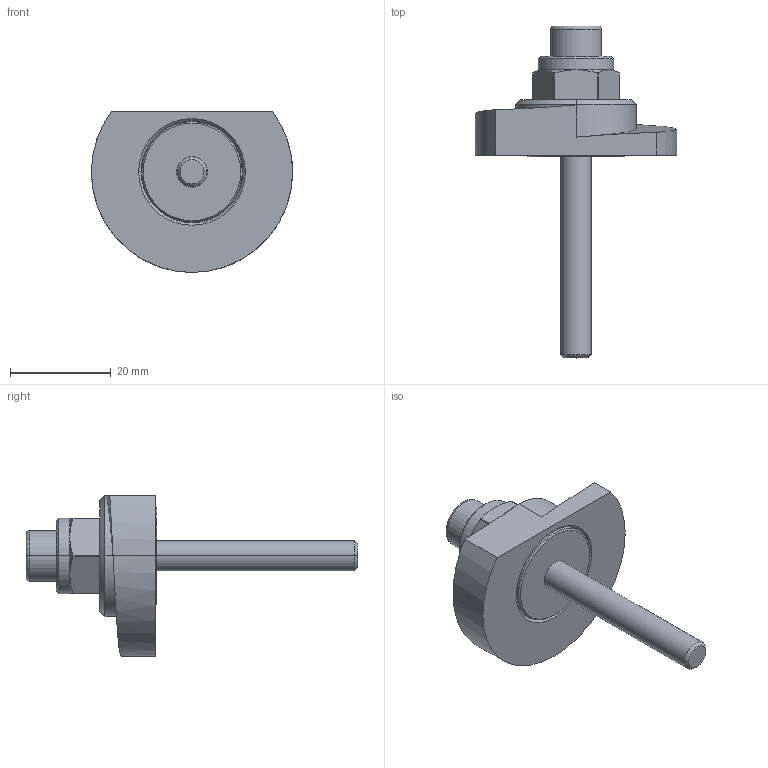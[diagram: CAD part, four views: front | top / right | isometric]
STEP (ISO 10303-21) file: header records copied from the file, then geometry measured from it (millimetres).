
FILE_DESCRIPTION (( 'STEP AP214' ), '1' );
FILE_NAME ('918.1-40-SKS-R-40.step', '2024-05-15T13:01:15', ( '' ), ( '' ), 'SwSTEP 2.0', 'SolidWorks 2022', '' );
FILE_SCHEMA (( 'AUTOMOTIVE_DESIGN' ));
Length unit declared in the file: millimetre
Products named in the file (1): 918.1-40-SKS-R-40
Bounding box: 40 x 66 x 32 mm (x, y, z)
Volume: 12081 mm3; surface area: 6962.5 mm2
Topology: 1 solids, 2 shells, 82 faces, 185 edges, 116 vertices
Faces by surface type: cylinder 30, plane 26, cone 22, torus 2, bspline 2
Entity records: 2641 total; most frequent: CARTESIAN_POINT 753, DIRECTION 407, ORIENTED_EDGE 370, EDGE_CURVE 185, AXIS2_PLACEMENT_3D 163, VERTEX_POINT 116, EDGE_LOOP 93, ADVANCED_FACE 82
